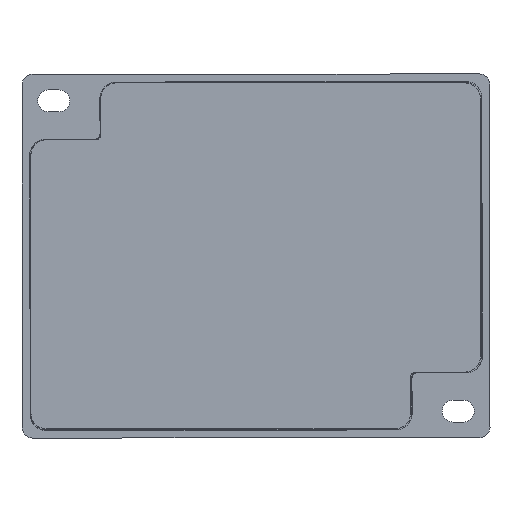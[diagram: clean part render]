
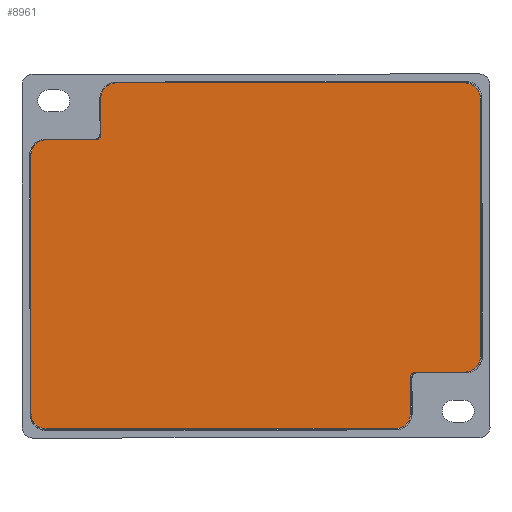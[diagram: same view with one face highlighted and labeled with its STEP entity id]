
A CAD part, top view. The second image highlights one B-rep face of the part: STEP entity #8961.
In plain terms, the highlighted planar face has unit normal (0, 0, 1).
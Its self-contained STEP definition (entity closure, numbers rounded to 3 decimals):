
#2759=DIRECTION('',(0.,-1.,0.));
#2760=VECTOR('',#2759,49.992);
#2761=CARTESIAN_POINT('',(-43.45,19.497,
0.));
#2762=LINE('',#2761,#2760);
#2766=CARTESIAN_POINT('',(-40.499,19.499,
0.));
#2767=DIRECTION('',(0.,0.,-1.));
#2768=DIRECTION('',(-1.,-0.001,0.));
#2769=AXIS2_PLACEMENT_3D('',#2766,#2767,#2768);
#2774=DIRECTION('',(1.,0.,0.));
#2775=VECTOR('',#2774,9.495);
#2776=CARTESIAN_POINT('',(-40.493,22.45,
0.));
#2777=LINE('',#2776,#2775);
#2781=CARTESIAN_POINT('',(-30.999,23.499,
0.));
#2782=DIRECTION('',(0.,0.,1.));
#2783=DIRECTION('',(0.001,-1.,0.));
#2784=AXIS2_PLACEMENT_3D('',#2781,#2782,#2783);
#2789=DIRECTION('',(0.,1.,0.));
#2790=VECTOR('',#2789,6.997);
#2791=CARTESIAN_POINT('',(-29.95,23.499,
0.));
#2792=LINE('',#2791,#2790);
#2796=CARTESIAN_POINT('',(-26.999,30.499,
0.));
#2797=DIRECTION('',(0.,0.,-1.));
#2798=DIRECTION('',(-1.,-0.001,0.));
#2799=AXIS2_PLACEMENT_3D('',#2796,#2797,#2798);
#2804=CARTESIAN_POINT('',(40.499,30.499,0.));
#2805=DIRECTION('',(0.,0.,-1.));
#2806=DIRECTION('',(-0.002,1.,0.));
#2807=AXIS2_PLACEMENT_3D('',#2804,#2805,#2806);
#2812=DIRECTION('',(0.,-1.,0.));
#2813=VECTOR('',#2812,50.023);
#2814=CARTESIAN_POINT('',(43.45,30.495,
0.));
#2815=LINE('',#2814,#2813);
#2819=CARTESIAN_POINT('',(40.528,-19.528,
0.));
#2820=DIRECTION('',(0.,0.,-1.));
#2821=DIRECTION('',(1.,-0.001,0.));
#2822=AXIS2_PLACEMENT_3D('',#2819,#2820,#2821);
#2827=DIRECTION('',(-1.,0.,0.));
#2828=VECTOR('',#2827,9.528);
#2829=CARTESIAN_POINT('',(40.526,-22.45,
0.));
#2830=LINE('',#2829,#2828);
#2834=CARTESIAN_POINT('',(30.999,-23.499,
0.));
#2835=DIRECTION('',(0.,0.,1.));
#2836=DIRECTION('',(-0.002,1.,0.));
#2837=AXIS2_PLACEMENT_3D('',#2834,#2835,#2836);
#2842=DIRECTION('',(0.,-1.,0.));
#2843=VECTOR('',#2842,6.997);
#2844=CARTESIAN_POINT('',(29.95,-23.499,
0.));
#2845=LINE('',#2844,#2843);
#2849=CARTESIAN_POINT('',(26.999,-30.499,
0.));
#2850=DIRECTION('',(0.,0.,-1.));
#2851=DIRECTION('',(1.,0.001,0.));
#2852=AXIS2_PLACEMENT_3D('',#2849,#2850,#2851);
#2857=CARTESIAN_POINT('',(-40.499,-30.499,
0.));
#2858=DIRECTION('',(0.,0.,-1.));
#2859=DIRECTION('',(0.002,-1.,0.));
#2860=AXIS2_PLACEMENT_3D('',#2857,#2858,#2859);
#2907=DIRECTION('',(-1.,0.,0.));
#2908=VECTOR('',#2907,67.488);
#2909=CARTESIAN_POINT('',(40.494,33.45,
0.));
#2910=LINE('',#2909,#2908);
#2991=DIRECTION('',(1.,0.,0.));
#2992=VECTOR('',#2991,67.488);
#2993=CARTESIAN_POINT('',(-40.494,-33.45,
0.));
#2994=LINE('',#2993,#2992);
#5646=CARTESIAN_POINT('',(-43.45,19.497,
0.));
#5647=VERTEX_POINT('',#5646);
#5648=CARTESIAN_POINT('',(-40.493,22.45,
0.));
#5649=VERTEX_POINT('',#5648);
#5650=CARTESIAN_POINT('',(-43.45,-30.495,
0.));
#5651=VERTEX_POINT('',#5650);
#5652=CARTESIAN_POINT('',(-30.998,22.45,
0.));
#5653=VERTEX_POINT('',#5652);
#5654=CARTESIAN_POINT('',(-29.95,23.498,
0.));
#5655=VERTEX_POINT('',#5654);
#5656=CARTESIAN_POINT('',(-29.95,30.496,
0.));
#5657=VERTEX_POINT('',#5656);
#5658=CARTESIAN_POINT('',(-26.994,33.449,
0.));
#5659=VERTEX_POINT('',#5658);
#5660=CARTESIAN_POINT('',(40.494,33.45,
0.));
#5661=VERTEX_POINT('',#5660);
#5662=CARTESIAN_POINT('',(43.449,30.494,0.));
#5663=VERTEX_POINT('',#5662);
#5664=CARTESIAN_POINT('',(43.45,-19.527,
0.));
#5665=VERTEX_POINT('',#5664);
#5666=CARTESIAN_POINT('',(40.526,-22.45,
0.));
#5667=VERTEX_POINT('',#5666);
#5668=CARTESIAN_POINT('',(30.998,-22.45,0.));
#5669=VERTEX_POINT('',#5668);
#5670=CARTESIAN_POINT('',(29.95,-23.498,
0.));
#5671=VERTEX_POINT('',#5670);
#5672=CARTESIAN_POINT('',(29.95,-30.496,
0.));
#5673=VERTEX_POINT('',#5672);
#5674=CARTESIAN_POINT('',(26.994,-33.449,
0.));
#5675=VERTEX_POINT('',#5674);
#5676=CARTESIAN_POINT('',(-40.494,-33.45,
0.));
#5677=VERTEX_POINT('',#5676);
#8924=CARTESIAN_POINT('',(0.,0.,0.));
#8925=DIRECTION('',(0.,0.,1.));
#8926=DIRECTION('',(1.,0.,0.));
#8927=AXIS2_PLACEMENT_3D('',#8924,#8925,#8926);
#8928=PLANE('',#8927);
#8929=ORIENTED_EDGE('',*,*,#8905,.F.);
#8930=ORIENTED_EDGE('',*,*,#8881,.T.);
#8932=ORIENTED_EDGE('',*,*,#8931,.T.);
#8934=ORIENTED_EDGE('',*,*,#8933,.T.);
#8936=ORIENTED_EDGE('',*,*,#8935,.T.);
#8938=ORIENTED_EDGE('',*,*,#8937,.T.);
#8940=ORIENTED_EDGE('',*,*,#8939,.F.);
#8942=ORIENTED_EDGE('',*,*,#8941,.T.);
#8944=ORIENTED_EDGE('',*,*,#8943,.T.);
#8946=ORIENTED_EDGE('',*,*,#8945,.T.);
#8948=ORIENTED_EDGE('',*,*,#8947,.T.);
#8950=ORIENTED_EDGE('',*,*,#8949,.T.);
#8952=ORIENTED_EDGE('',*,*,#8951,.T.);
#8954=ORIENTED_EDGE('',*,*,#8953,.T.);
#8956=ORIENTED_EDGE('',*,*,#8955,.F.);
#8958=ORIENTED_EDGE('',*,*,#8957,.T.);
#8959=EDGE_LOOP('',(#8929,#8930,#8932,#8934,#8936,#8938,#8940,#8942,#8944,#8946,
#8948,#8950,#8952,#8954,#8956,#8958));
#8960=FACE_OUTER_BOUND('',#8959,.F.);
#2770=CIRCLE('',#2769,2.95);
#2785=CIRCLE('',#2784,1.049);
#2800=CIRCLE('',#2799,2.95);
#2808=CIRCLE('',#2807,2.95);
#2823=CIRCLE('',#2822,2.922);
#2838=CIRCLE('',#2837,1.049);
#2853=CIRCLE('',#2852,2.95);
#2861=CIRCLE('',#2860,2.95);
#8881=EDGE_CURVE('',#5647,#5649,#2770,.T.);
#8905=EDGE_CURVE('',#5647,#5651,#2762,.T.);
#8931=EDGE_CURVE('',#5649,#5653,#2777,.T.);
#8933=EDGE_CURVE('',#5653,#5655,#2785,.T.);
#8935=EDGE_CURVE('',#5655,#5657,#2792,.T.);
#8937=EDGE_CURVE('',#5657,#5659,#2800,.T.);
#8939=EDGE_CURVE('',#5661,#5659,#2910,.T.);
#8941=EDGE_CURVE('',#5661,#5663,#2808,.T.);
#8943=EDGE_CURVE('',#5663,#5665,#2815,.T.);
#8945=EDGE_CURVE('',#5665,#5667,#2823,.T.);
#8947=EDGE_CURVE('',#5667,#5669,#2830,.T.);
#8949=EDGE_CURVE('',#5669,#5671,#2838,.T.);
#8951=EDGE_CURVE('',#5671,#5673,#2845,.T.);
#8953=EDGE_CURVE('',#5673,#5675,#2853,.T.);
#8955=EDGE_CURVE('',#5677,#5675,#2994,.T.);
#8957=EDGE_CURVE('',#5677,#5651,#2861,.T.);
#8961=ADVANCED_FACE('',(#8960),#8928,.T.);
